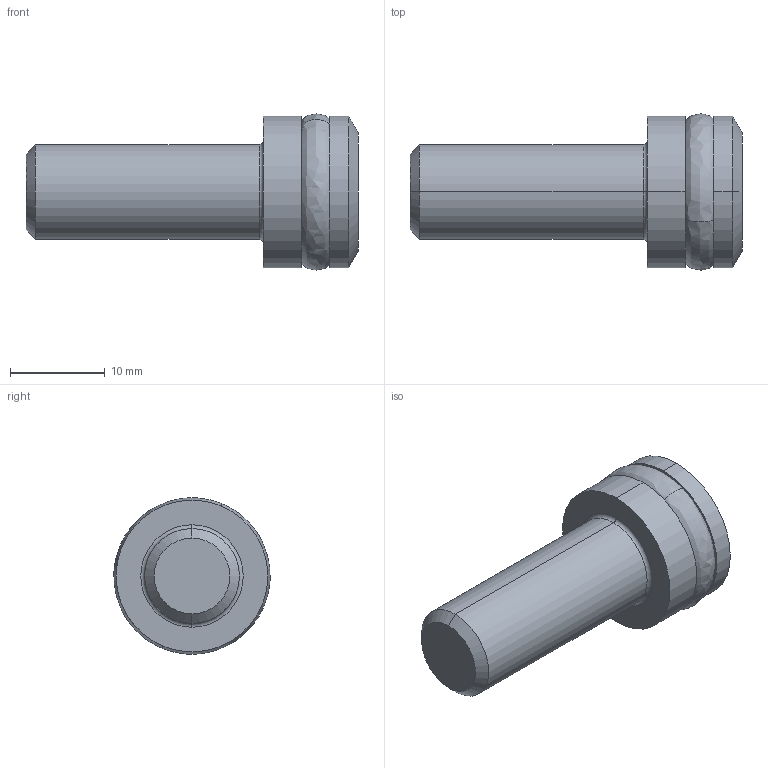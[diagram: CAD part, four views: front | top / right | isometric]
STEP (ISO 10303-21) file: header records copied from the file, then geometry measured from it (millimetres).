
FILE_DESCRIPTION (( 'STEP AP203' ), '1' );
FILE_NAME ('DHP-61P497329.STEP', '2024-12-06T01:39:43', ( '' ), ( '' ), 'SwSTEP 2.0', 'SolidWorks 2022', '' );
FILE_SCHEMA (( 'CONFIG_CONTROL_DESIGN' ));
Length unit declared in the file: millimetre
Products named in the file (5): 005AYA0006; 0263001250_円筒用; 61Q494598; DHP-61P497329; DCC111-M10ASSY
Assembly tree (4 placements, depth 4):
  DHP-61P497329
    DCC111-M10ASSY
      61Q494598
        005AYA0006
      0263001250_円筒用
Bounding box: 35 x 16.47 x 16.49 mm (x, y, z)
Volume: 3713.7 mm3; surface area: 2210.2 mm2
Topology: 2 solids, 2 shells, 39 faces, 90 edges, 55 vertices
Faces by surface type: plane 11, cylinder 8, cone 8, torus 6, bspline 6
Entity records: 2231 total; most frequent: CARTESIAN_POINT 817, DIRECTION 224, ORIENTED_EDGE 176, AXIS2_PLACEMENT_3D 104, EDGE_CURVE 88, CIRCLE 62, VERTEX_POINT 55, PERSON_AND_ORGANIZATION 44
